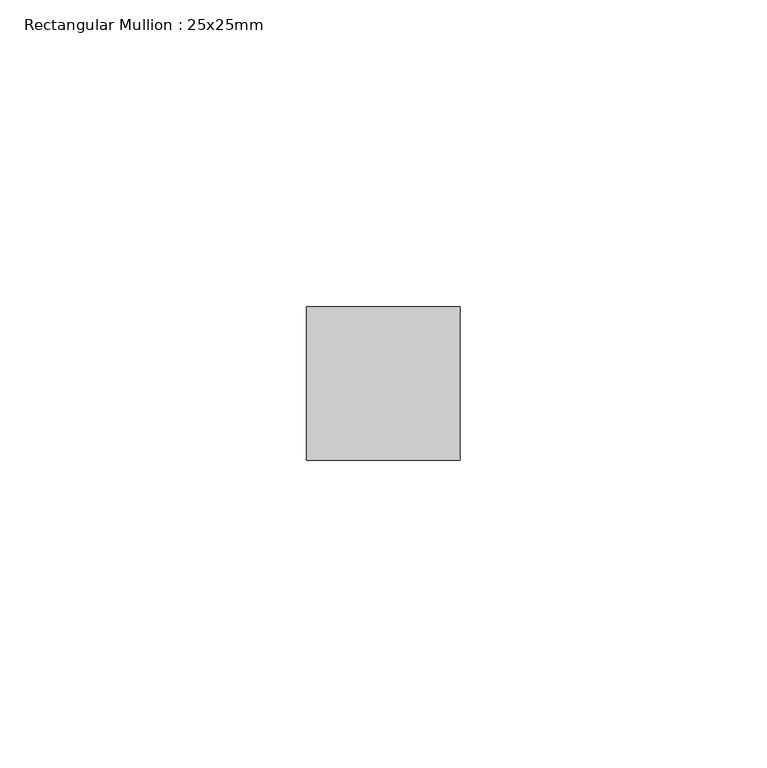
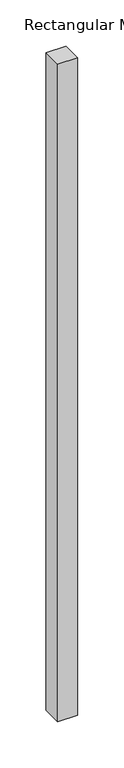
"""IFC4 building model written with IfcOpenShell, lengths in millimetres: member geometry, Rectangular Mullion : 25x25mm."""

from ifc_helpers import new_model, si_unit, frame, origin, place, context, project, spatial, polyline, outline, extrude, source, transform, mapped, element, save


def rectangular_mullion_25x25mm_25705b98(model_context):
    return source(origin(), model_context, "Body", "SweptSolid", [
        extrude(outline(polyline([(0.0, 0.5), (0.0, -24.5), (-25.0, -24.5), (-25.0, 0.5), (0.0, 0.5)])), frame((0.0, 0.0, -865.6250002), z_axis=(0.0, 0.0, 1.0), x_axis=(1.0, 0.0, 0.0)), (0.0, 0.0, 1.0), 865.6250002),
    ])


if __name__ == "__main__":
    model = new_model("IFC4")
    model_context = context("Model", 3, world=origin())
    ifc_project = project(units=[si_unit("LENGTHUNIT", "METRE", prefix="MILLI")], contexts=[model_context])
    site = spatial("IfcSite", under=ifc_project)
    building = spatial("IfcBuilding", under=site)
    placement = place(None, origin())
    rectangular_mullion_25x25mm_shape = rectangular_mullion_25x25mm_25705b98(model_context)
    element("IfcMember", 1, ObjectType="Rectangular Mullion : 25x25mm", at=placement, inside=building, context=model_context, shape_type="MappedRepresentation", body=[
        mapped(rectangular_mullion_25x25mm_shape, transform((0.0, 0.0, 0.0), x_axis=(1.0, 0.0, 0.0), y_axis=(0.0, 1.0, 0.0), z_axis=(0.0, 0.0, 1.0))),
    ])
    save(model, "model.ifc")
